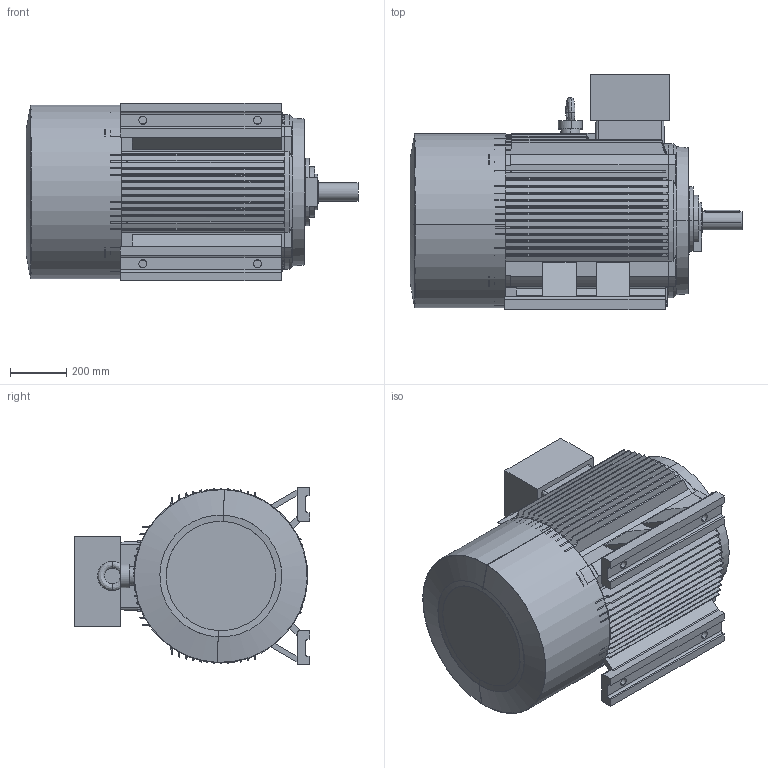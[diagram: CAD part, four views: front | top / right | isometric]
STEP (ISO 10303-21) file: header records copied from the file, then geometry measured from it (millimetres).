
FILE_DESCRIPTION (( 'STEP AP203' ), '1' );
FILE_NAME ('M3-315S-2p-FF-B3.STEP', '2019-07-09T10:59:42', ( '' ), ( '' ), 'SwSTEP 2.0', 'SolidWorks 2012', '' );
FILE_SCHEMA (( 'CONFIG_CONTROL_DESIGN' ));
Length unit declared in the file: millimetre
Products named in the file (7): 315ﾁｧ+ﾀ_-ｼ+､; M3-315S-2p-FF-B3; Y2-315-2.4..6.8ﾀiﾍ_-ｼ+､; +ｷﾎｨB3-315S_-ｼ+､; Y2-315-2ﾍﾟ_-ｼ+､; Y2-315-2Íß¦ð-Ô©Ã_-¼+¤; Y2-315-2ﾃｦﾂ-ｩﾃ_-ｼ+､
Assembly tree (6 placements, depth 2):
  M3-315S-2p-FF-B3
    Y2-315-2ﾃｦﾂ-ｩﾃ_-ｼ+､
    Y2-315-2ﾍﾟ_-ｼ+､
    +ｷﾎｨB3-315S_-ｼ+､
    Y2-315-2.4..6.8ﾀiﾍ_-ｼ+､
    Y2-315-2Íß¦ð-Ô©Ã_-¼+¤
    315ﾁｧ+ﾀ_-ｼ+､
Bounding box: 1176 x 834 x 628 mm (x, y, z)
Volume: 65291413.8 mm3; surface area: 8297327.8 mm2
Topology: 6 solids, 10 shells, 719 faces, 2025 edges, 1336 vertices
Faces by surface type: plane 328, cylinder 234, cone 88, bspline 69
Entity records: 29777 total; most frequent: CARTESIAN_POINT 11080, ORIENTED_EDGE 4050, DIRECTION 3378, EDGE_CURVE 2025, VERTEX_POINT 1336, AXIS2_PLACEMENT_3D 1242, LINE 894, VECTOR 894
